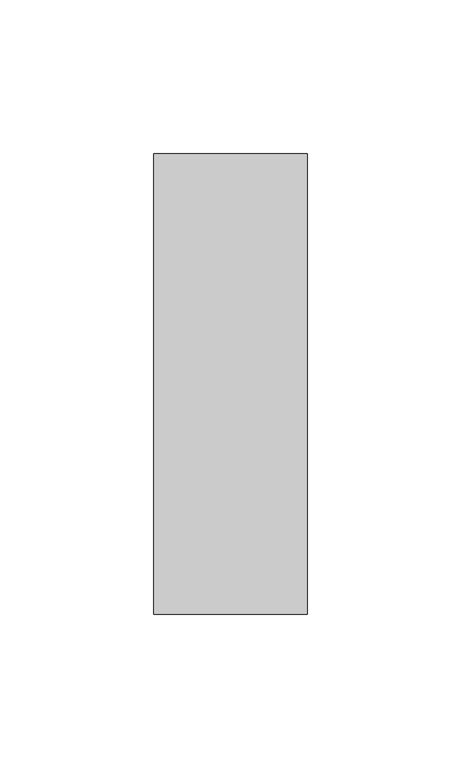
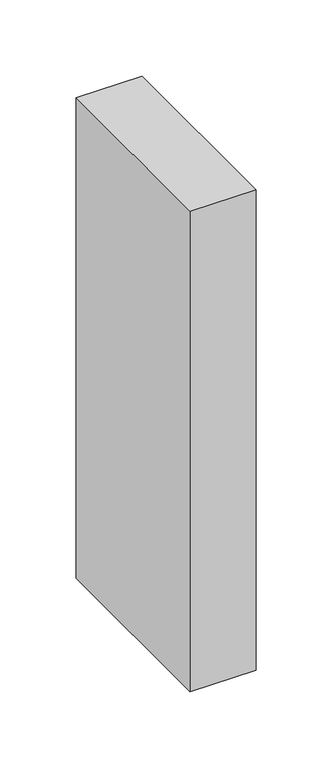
"""IFC4 building model written with IfcOpenShell, lengths in millimetres: member geometry, Прямоугольный импост : 50х150мм."""

from ifc_helpers import new_model, si_unit, frame, origin, place, context, project, spatial, polyline, outline, extrude, source, transform, mapped, element, save


def member_8108f97d(model_context):
    return source(origin(), model_context, "Body", "SweptSolid", [
        extrude(outline(polyline([(0.0, 75.0), (0.0, -75.0), (-50.0, -75.0), (-50.0, 75.0), (0.0, 75.0)])), frame((0.0, 0.0, -385.4505288), z_axis=(0.0, 0.0, 1.0), x_axis=(1.0, 0.0, 0.0)), (0.0, 0.0, 1.0), 385.4505288),
    ])


if __name__ == "__main__":
    model = new_model("IFC4")
    model_context = context("Model", 3, world=origin())
    ifc_project = project(units=[si_unit("LENGTHUNIT", "METRE", prefix="MILLI")], contexts=[model_context])
    site = spatial("IfcSite", under=ifc_project)
    building = spatial("IfcBuilding", under=site)
    placement = place(None, origin())
    member_shape = member_8108f97d(model_context)
    element("IfcMember", 1, ObjectType="Прямоугольный импост : 50х150мм", at=placement, inside=building, context=model_context, shape_type="MappedRepresentation", body=[
        mapped(member_shape, transform((0.0, 0.0, 0.0), x_axis=(1.0, 0.0, 0.0), y_axis=(0.0, 1.0, 0.0), z_axis=(0.0, 0.0, 1.0))),
    ])
    save(model, "model.ifc")
